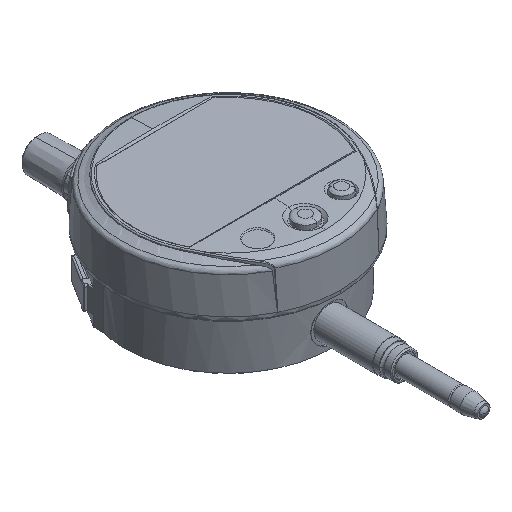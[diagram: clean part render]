
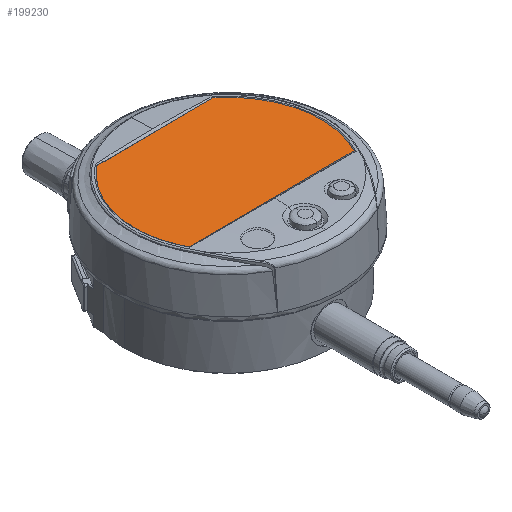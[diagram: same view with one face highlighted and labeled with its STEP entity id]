
A CAD part, isometric view. The second image highlights one B-rep face of the part: STEP entity #199230.
In plain terms, the highlighted planar face has unit normal (-0.004, 0.002, 1).
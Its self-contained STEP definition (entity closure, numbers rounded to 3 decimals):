
#193040=CARTESIAN_POINT('',(-15.202,19.15,
20.333));
#193050=VERTEX_POINT('',#193040);
#193080=CARTESIAN_POINT('',(-15.202,19.15,
20.333));
#193090=CARTESIAN_POINT('',(-16.976,17.742,
20.328));
#193100=CARTESIAN_POINT('',(-18.545,16.094,
20.324));
#193110=CARTESIAN_POINT('',(-21.186,12.414,
20.319));
#193120=CARTESIAN_POINT('',(-22.244,10.4,
20.319));
#193130=CARTESIAN_POINT('',(-23.776,6.137,
20.32));
#193140=CARTESIAN_POINT('',(-24.242,3.909,
20.322));
#193150=CARTESIAN_POINT('',(-24.548,-0.61,
20.329));
#193160=CARTESIAN_POINT('',(-24.386,-2.88,
20.333));
#193170=CARTESIAN_POINT('',(-23.442,-7.31,
20.345));
#193180=CARTESIAN_POINT('',(-22.664,-9.449,
20.353));
#193190=CARTESIAN_POINT('',(-21.604,-11.45,
20.361));
#193200=B_SPLINE_CURVE_WITH_KNOTS('',3,(#193080,#193090,#193100,#193110,
#193120,#193130,#193140,#193150,#193160,#193170,#193180,#193190),
.UNSPECIFIED.,.F.,.F.,(4,2,2,2,2,4),(0.,1.,2.,3.,4.,5.),.UNSPECIFIED.);
#193210=CARTESIAN_POINT('',(-21.604,-11.45,
20.361));
#193220=VERTEX_POINT('',#193210);
#193230=EDGE_CURVE('',#193050,#193220,#193200,.T.);
#198840=CARTESIAN_POINT('',(-12.796,5.41,
20.368));
#198850=DIRECTION('',(-0.004,0.002,
1.));
#198860=DIRECTION('',(0.921,-0.389,
0.005));
#198870=AXIS2_PLACEMENT_3D('',#198840,#198850,#198860);
#198880=PLANE('',#198870);
#198890=CARTESIAN_POINT('',(-0.001,19.15,
20.398));
#198900=DIRECTION('',(-1.,0.,
-0.004));
#198910=VECTOR('',#198900,1.);
#198920=LINE('',#198890,#198910);
#198930=CARTESIAN_POINT('',(15.2,19.15,
20.462));
#198940=VERTEX_POINT('',#198930);
#198950=EDGE_CURVE('',#198940,#193050,#198920,.T.);
#198960=ORIENTED_EDGE('',*,*,#198950,.T.);
#198970=CARTESIAN_POINT('',(21.602,-11.449,
20.545));
#198980=CARTESIAN_POINT('',(22.662,-9.448,
20.546));
#198990=CARTESIAN_POINT('',(23.44,-7.31,
20.545));
#199000=CARTESIAN_POINT('',(24.384,-2.879,
20.541));
#199010=CARTESIAN_POINT('',(24.546,-0.609,
20.538));
#199020=CARTESIAN_POINT('',(24.24,3.91,
20.529));
#199030=CARTESIAN_POINT('',(23.774,6.137,
20.523));
#199040=CARTESIAN_POINT('',(22.242,10.4,
20.508));
#199050=CARTESIAN_POINT('',(21.184,12.415,
20.5));
#199060=CARTESIAN_POINT('',(18.544,16.095,
20.482));
#199070=CARTESIAN_POINT('',(16.974,17.742,
20.473));
#199080=CARTESIAN_POINT('',(15.2,19.15,
20.462));
#199090=B_SPLINE_CURVE_WITH_KNOTS('',3,(#198970,#198980,#198990,#199000,
#199010,#199020,#199030,#199040,#199050,#199060,#199070,#199080),
.UNSPECIFIED.,.F.,.F.,(4,2,2,2,2,4),(0.,1.,2.,3.,4.,5.),.UNSPECIFIED.);
#199100=CARTESIAN_POINT('',(21.602,-11.449,
20.545));
#199110=VERTEX_POINT('',#199100);
#199120=EDGE_CURVE('',#199110,#198940,#199090,.T.);
#199130=ORIENTED_EDGE('',*,*,#199120,.T.);
#199140=CARTESIAN_POINT('',(-0.001,-11.45,
20.453));
#199150=DIRECTION('',(1.,0.,
0.004));
#199160=VECTOR('',#199150,1.);
#199170=LINE('',#199140,#199160);
#199180=EDGE_CURVE('',#193220,#199110,#199170,.T.);
#199190=ORIENTED_EDGE('',*,*,#199180,.T.);
#199200=ORIENTED_EDGE('',*,*,#193230,.T.);
#199210=EDGE_LOOP('',(#199200,#199190,#199130,#198960));
#199220=FACE_OUTER_BOUND('',#199210,.T.);
#199230=ADVANCED_FACE('',(#199220),#198880,.T.);
